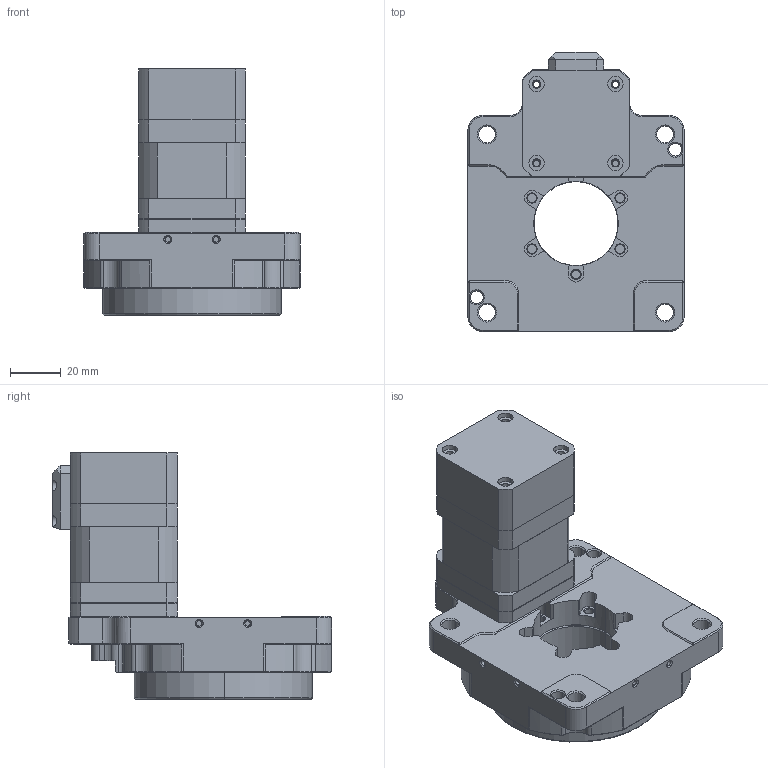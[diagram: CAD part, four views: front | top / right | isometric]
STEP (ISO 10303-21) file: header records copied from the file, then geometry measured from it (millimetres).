
FILE_DESCRIPTION (( 'STEP AP203' ), '1' );
FILE_NAME ('RTN85B-18k（闭环）.STEP', '2024-05-21T10:45:15', ( '' ), ( '' ), 'SwSTEP 2.0', 'SolidWorks 2023', '' );
FILE_SCHEMA (( 'CONFIG_CONTROL_DESIGN' ));
Length unit declared in the file: millimetre
Products named in the file (1): RTN85B-18k（闭环）
Bounding box: 85 x 109.7 x 96.7 mm (x, y, z)
Volume: 214447.3 mm3; surface area: 82318.6 mm2
Topology: 9 solids, 16 shells, 783 faces, 1941 edges, 1208 vertices
Faces by surface type: cylinder 320, plane 240, cone 209, torus 14
Entity records: 23998 total; most frequent: CARTESIAN_POINT 4692, DIRECTION 4278, ORIENTED_EDGE 3850, EDGE_CURVE 1925, AXIS2_PLACEMENT_3D 1657, VERTEX_POINT 1208, VECTOR 964, LINE 964
